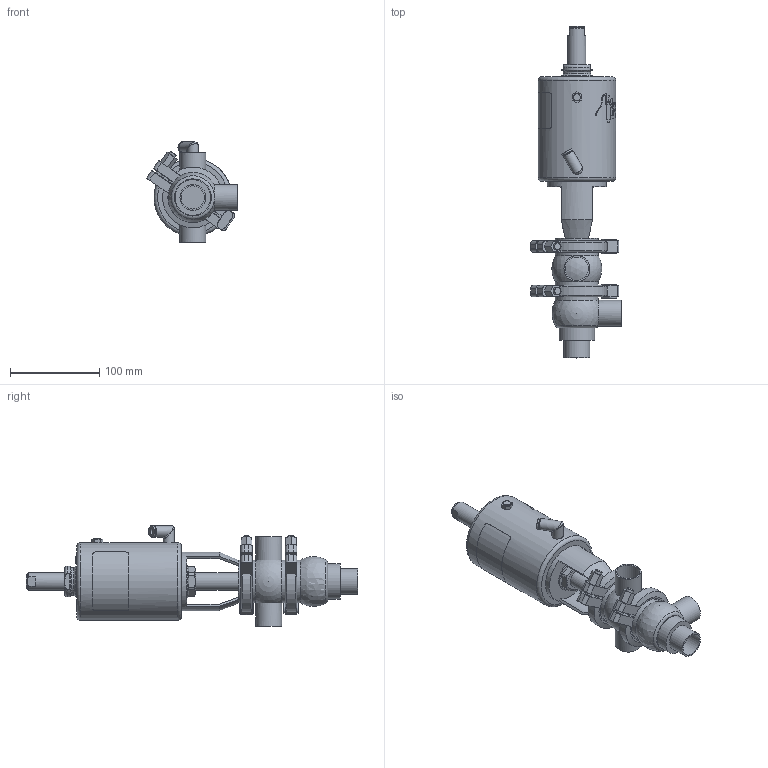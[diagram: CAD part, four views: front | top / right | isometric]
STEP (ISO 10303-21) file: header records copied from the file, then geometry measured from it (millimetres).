
FILE_DESCRIPTION (( 'STEP AP214' ), '1' );
FILE_NAME ('INNOVA K E W DIN 025 T1 AS NC_10.240.16.0022.STEP', '2024-08-06T10:51:07', ( '' ), ( '' ), 'SwSTEP 2.0', 'SolidWorks 2023', '' );
FILE_SCHEMA (( 'AUTOMOTIVE_DESIGN' ));
Length unit declared in the file: millimetre
Products named in the file (6): 10.240.15.0007_DIN 025; 10.240.15.0010_DN 025; INNOVA K E W DIN 025 T1 AS NC_10.240.16.0022; 10.240.15.0014_T1 AS P0; 10.240.15.0002_DIN 025; 10.240.15.0001_DN 025
Assembly tree (6 placements, depth 2):
  INNOVA K E W DIN 025 T1 AS NC_10.240.16.0022
    10.240.15.0007_DIN 025
    10.240.15.0002_DIN 025
    10.240.15.0010_DN 025
    10.240.15.0014_T1 AS P0
    10.240.15.0001_DN 025  x2
Bounding box: 101.94 x 372 x 112.25 mm (x, y, z)
Volume: 1079115 mm3; surface area: 148960.2 mm2
Topology: 6 solids, 6 shells, 407 faces, 1083 edges, 707 vertices
Faces by surface type: plane 194, cylinder 92, bspline 80, cone 30, sphere 6, torus 5
Full cylindrical faces by diameter (mm): 6.15 x1, 8 x5, 8.5 x1, 10.5 x1, 12.5 x3, 16 x1, 20 x2, 26 x4, 29 x4, 31 x1, 34.5 x2, 36.5 x1, 40 x1, 48 x4, 59.7 x4, 66 x1, 87 x1
Entity records: 19915 total; most frequent: CARTESIAN_POINT 10377, ORIENTED_EDGE 1674, DIRECTION 1303, EDGE_CURVE 837, VERTEX_POINT 576, AXIS2_PLACEMENT_3D 503, EDGE_LOOP 431, FACE_OUTER_BOUND 389
